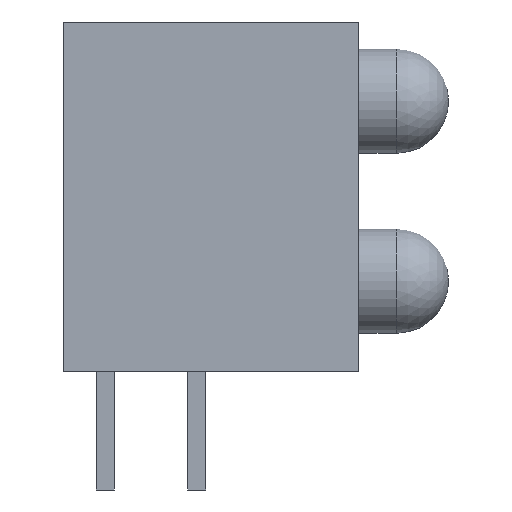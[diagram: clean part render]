
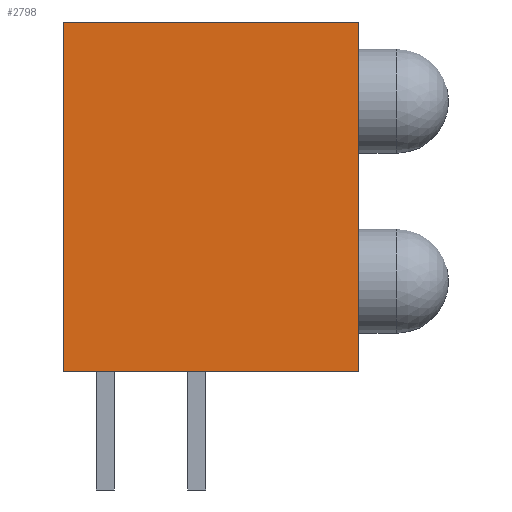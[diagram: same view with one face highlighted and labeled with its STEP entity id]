
A CAD part, left-side view. The second image highlights one B-rep face of the part: STEP entity #2798.
In plain terms, the highlighted planar face has unit normal (-1, 0, 0).
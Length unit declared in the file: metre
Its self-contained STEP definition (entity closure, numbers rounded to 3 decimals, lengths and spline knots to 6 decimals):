
#57=B_SPLINE_CURVE_WITH_KNOTS('',3,(#4311,#4312,#4313,#4314),
 .UNSPECIFIED.,.F.,.F.,(4,4),(0.,0.999756),.UNSPECIFIED.);
#58=B_SPLINE_CURVE_WITH_KNOTS('',3,(#4316,#4317,#4318,#4319),
 .UNSPECIFIED.,.F.,.F.,(4,4),(0.000244,1.),.UNSPECIFIED.);
#143=LINE('',#4299,#438);
#146=LINE('',#4305,#441);
#438=VECTOR('',#3525,1.);
#441=VECTOR('',#3530,1.);
#859=PLANE('',#3267);
#1091=ORIENTED_EDGE('',*,*,#1795,.F.);
#1092=ORIENTED_EDGE('',*,*,#1802,.T.);
#1093=ORIENTED_EDGE('',*,*,#1798,.F.);
#1094=ORIENTED_EDGE('',*,*,#1801,.F.);
#1795=EDGE_CURVE('',#2160,#2161,#143,.T.);
#1798=EDGE_CURVE('',#2162,#2163,#146,.T.);
#1801=EDGE_CURVE('',#2161,#2162,#57,.F.);
#1802=EDGE_CURVE('',#2160,#2163,#58,.T.);
#2160=VERTEX_POINT('',#4300);
#2161=VERTEX_POINT('',#4301);
#2162=VERTEX_POINT('',#4306);
#2163=VERTEX_POINT('',#4307);
#2400=EDGE_LOOP('',(#1091,#1092,#1093,#1094));
#2597=FACE_BOUND('',#2400,.T.);
#2798=ADVANCED_FACE('',(#2597),#859,.T.);
#3267=AXIS2_PLACEMENT_3D('',#4320,#3537,#3538);
#3525=DIRECTION('',(0.,1.,0.));
#3530=DIRECTION('',(0.,-1.,0.));
#3537=DIRECTION('',(-1.,0.,0.));
#3538=DIRECTION('',(0.,0.,1.));
#4299=CARTESIAN_POINT('',(-0.01,0.00485,-0.0082));
#4300=CARTESIAN_POINT('',(-0.01,-0.00485,-0.0082));
#4301=CARTESIAN_POINT('',(-0.01,0.00485,-0.0082));
#4305=CARTESIAN_POINT('',(-0.01,0.00485,0.));
#4306=CARTESIAN_POINT('',(-0.01,0.00485,0.));
#4307=CARTESIAN_POINT('',(-0.01,-0.00485,0.));
#4311=CARTESIAN_POINT('',(-0.01,0.00485,0.));
#4312=CARTESIAN_POINT('',(-0.01,0.00485,-0.002733));
#4313=CARTESIAN_POINT('',(-0.01,0.00485,-0.005467));
#4314=CARTESIAN_POINT('',(-0.01,0.00485,-0.0082));
#4316=CARTESIAN_POINT('',(-0.01,-0.00485,-0.0082));
#4317=CARTESIAN_POINT('',(-0.01,-0.00485,-0.005467));
#4318=CARTESIAN_POINT('',(-0.01,-0.00485,-0.002733));
#4319=CARTESIAN_POINT('',(-0.01,-0.00485,0.));
#4320=CARTESIAN_POINT('',(-0.01,0.00485,-0.008202));
